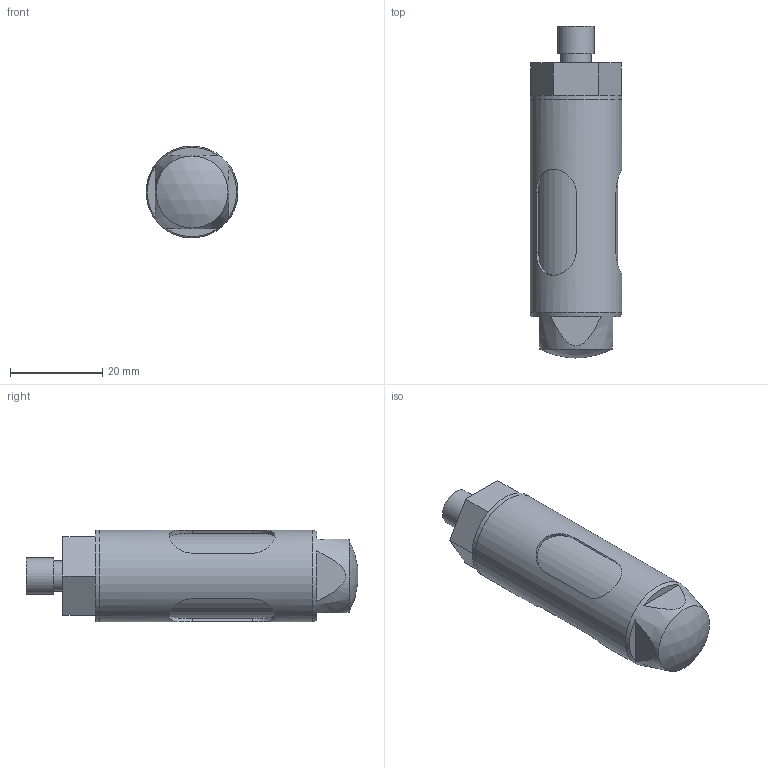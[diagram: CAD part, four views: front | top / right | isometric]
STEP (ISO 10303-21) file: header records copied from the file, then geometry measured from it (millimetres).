
FILE_DESCRIPTION(/* description */ (''),/* implementation_level */ '2;1');
FILE_NAME(/* name */ 'T:\Anwender\Praktikant\Tobias Könemund\Innengreifer\Parametrisch\G-GI020_vereinfacht.stp',/* time_stamp */ '2015-10-30T08:18:31+01:00',/* author */ ('Praktikant'),/* organization */ ('GRIP GmbH'),/* preprocessor_version */ 'ST-DEVELOPER v15.2',/* originating_system */ 'Autodesk Inventor 2014',/* authorisation */ '');
FILE_SCHEMA (('AUTOMOTIVE_DESIGN { 1 0 10303 214 3 1 1 }'));
Length unit declared in the file: millimetre
Products named in the file (3): G-GI020-2.1-1 Dorn_vereinfacht-01; G-GI020-1.1-1 Hülse_vereinfacht-02; Baugruppe_vereinfacht
Bounding box: 19.9 x 71.92 x 19.9 mm (x, y, z)
Volume: 17710 mm3; surface area: 9207.1 mm2
Topology: 2 solids, 2 shells, 44 faces, 98 edges, 65 vertices
Faces by surface type: plane 28, cylinder 13, cone 2, sphere 1
Full cylindrical faces by diameter (mm): 5 x1, 6.6 x1, 8 x1, 18 x1, 18.3 x1, 19.9 x2
Entity records: 1364 total; most frequent: CARTESIAN_POINT 401, DIRECTION 182, ORIENTED_EDGE 162, EDGE_CURVE 81, EDGE_LOOP 68, AXIS2_PLACEMENT_3D 68, VERTEX_POINT 59, LINE 46
